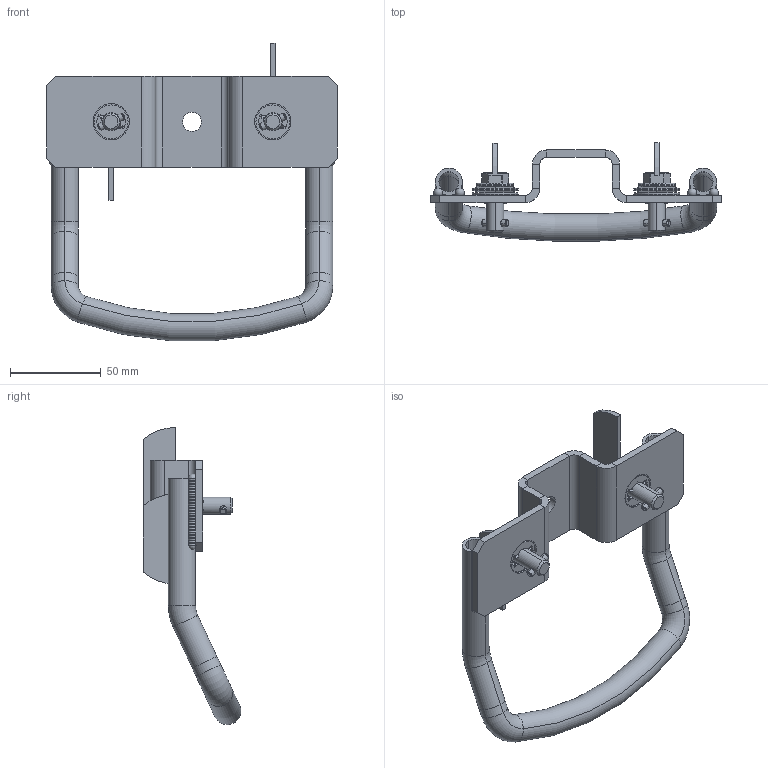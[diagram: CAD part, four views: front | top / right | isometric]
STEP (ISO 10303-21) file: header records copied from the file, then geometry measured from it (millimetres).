
FILE_DESCRIPTION((''),'2;1');
FILE_NAME('GLP-20463_ASM','2025-05-14T15:50:30',('MarcRapp'),(''),'CREO PARAMETRIC BY PTC INC, 2023073','CREO PARAMETRIC BY PTC INC, 2023073','');
FILE_SCHEMA(('AUTOMOTIVE_DESIGN { 1 0 10303 214 1 1 1 1 }'));
Length unit declared in the file: millimetre
Products named in the file (9): GLP-11700; GLP-11699; GLP-11698; GLP-11347; GLP-10014; GLP-10012; GLP-20356_ASM; GLP-10240; GLP-20463_ASM
Assembly tree (15 placements, depth 3):
  GLP-20463_ASM
    GLP-11700
    GLP-11699
    GLP-11698  x4
    GLP-20356_ASM  x2
      GLP-11347
      GLP-10014
      GLP-10012
    GLP-10240  x2
Bounding box: 160 x 53.78 x 163.53 mm (x, y, z)
Volume: 84967.7 mm3; surface area: 70583 mm2
Topology: 18 solids, 18 shells, 550 faces, 1605 edges, 908 vertices
Faces by surface type: sphere 188, plane 144, cylinder 138, torus 28, bspline 28, cone 24
Entity records: 14537 total; most frequent: CARTESIAN_POINT 3213, DIRECTION 1728, ORIENTED_EDGE 1218, AXIS2_PLACEMENT_3D 676, EDGE_CURVE 609, PROPERTY_DEFINITION 490, REPRESENTATION 483, PROPERTY_DEFINITION_REPRESENTATION 483
